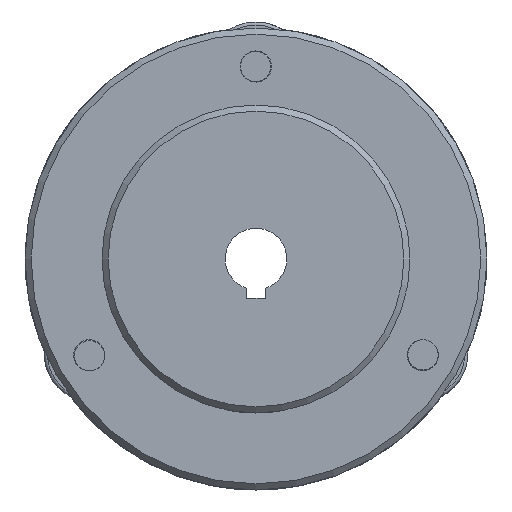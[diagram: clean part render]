
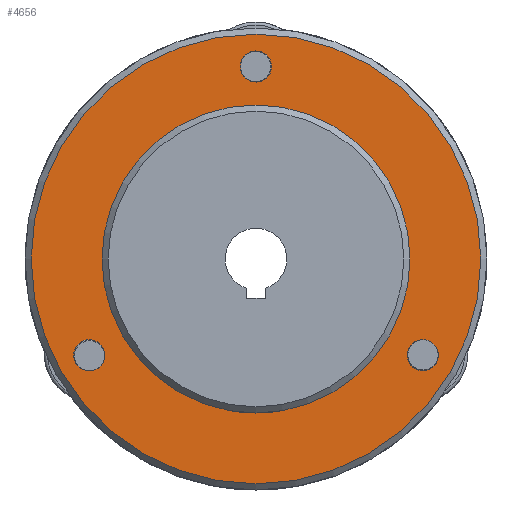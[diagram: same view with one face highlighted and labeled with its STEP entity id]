
A CAD part, left-side view. The second image highlights one B-rep face of the part: STEP entity #4656.
In plain terms, the highlighted planar face has unit normal (-1, 0, 0) as drawn and (0, 1, 0) by its records, which use the part's own axes.
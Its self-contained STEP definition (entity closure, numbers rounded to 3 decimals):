
#950=FACE_BOUND('',#1319,.T.);
#951=FACE_BOUND('',#1320,.T.);
#952=FACE_BOUND('',#1321,.T.);
#953=FACE_BOUND('',#1322,.T.);
#1015=FACE_OUTER_BOUND('',#1318,.T.);
#1318=EDGE_LOOP('',(#3202));
#1319=EDGE_LOOP('',(#3203));
#1320=EDGE_LOOP('',(#3204));
#1321=EDGE_LOOP('',(#3205));
#1322=EDGE_LOOP('',(#3206));
#1659=CIRCLE('',#5151,50.);
#1660=CIRCLE('',#5154,73.);
#1663=CIRCLE('',#5159,5.053);
#1664=CIRCLE('',#5160,5.053);
#1665=CIRCLE('',#5161,5.053);
#2000=VERTEX_POINT('',#7351);
#2004=VERTEX_POINT('',#7398);
#2007=VERTEX_POINT('',#7408);
#2008=VERTEX_POINT('',#7410);
#2009=VERTEX_POINT('',#7412);
#2449=EDGE_CURVE('',#2000,#2000,#1659,.T.);
#2453=EDGE_CURVE('',#2004,#2004,#1660,.T.);
#2458=EDGE_CURVE('',#2007,#2007,#1663,.T.);
#2459=EDGE_CURVE('',#2008,#2008,#1664,.T.);
#2460=EDGE_CURVE('',#2009,#2009,#1665,.T.);
#3202=ORIENTED_EDGE('',*,*,#2453,.F.);
#3203=ORIENTED_EDGE('',*,*,#2449,.F.);
#3204=ORIENTED_EDGE('',*,*,#2458,.T.);
#3205=ORIENTED_EDGE('',*,*,#2459,.T.);
#3206=ORIENTED_EDGE('',*,*,#2460,.T.);
#4561=PLANE('',#5158);
#4656=ADVANCED_FACE('',(#1015,#950,#951,#952,#953),#4561,.T.);
#5151=AXIS2_PLACEMENT_3D('',#7353,#5833,#5834);
#5154=AXIS2_PLACEMENT_3D('',#7399,#5839,#5840);
#5158=AXIS2_PLACEMENT_3D('',#7407,#5849,#5850);
#5159=AXIS2_PLACEMENT_3D('',#7409,#5851,#5852);
#5160=AXIS2_PLACEMENT_3D('',#7411,#5853,#5854);
#5161=AXIS2_PLACEMENT_3D('',#7413,#5855,#5856);
#5833=DIRECTION('center_axis',(0.,1.,0.));
#5834=DIRECTION('ref_axis',(-1.,0.,0.));
#5839=DIRECTION('center_axis',(0.,-1.,0.));
#5840=DIRECTION('ref_axis',(1.,0.,0.));
#5849=DIRECTION('center_axis',(0.,1.,0.));
#5850=DIRECTION('ref_axis',(0.,0.,1.));
#5851=DIRECTION('center_axis',(0.,-1.,0.));
#5852=DIRECTION('ref_axis',(1.,0.,0.));
#5853=DIRECTION('center_axis',(0.,-1.,0.));
#5854=DIRECTION('ref_axis',(1.,0.,0.));
#5855=DIRECTION('center_axis',(0.,-1.,0.));
#5856=DIRECTION('ref_axis',(1.,0.,0.));
#7351=CARTESIAN_POINT('',(50.,12.,0.));
#7353=CARTESIAN_POINT('Origin',(0.,12.,0.));
#7398=CARTESIAN_POINT('',(-73.,12.,0.));
#7399=CARTESIAN_POINT('Origin',(0.,12.,0.));
#7407=CARTESIAN_POINT('Origin',(-62.5,12.,0.));
#7408=CARTESIAN_POINT('',(-59.18,12.,-31.25));
#7409=CARTESIAN_POINT('Origin',(-54.127,12.,-31.25));
#7410=CARTESIAN_POINT('',(-5.053,12.,62.5));
#7411=CARTESIAN_POINT('Origin',(0.,12.,62.5));
#7412=CARTESIAN_POINT('',(49.074,12.,-31.25));
#7413=CARTESIAN_POINT('Origin',(54.127,12.,-31.25));
